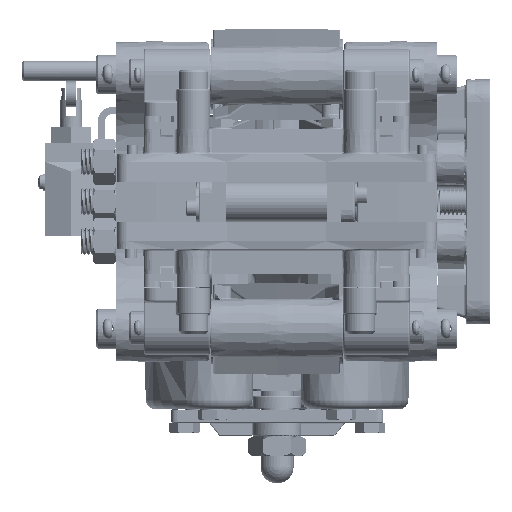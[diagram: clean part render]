
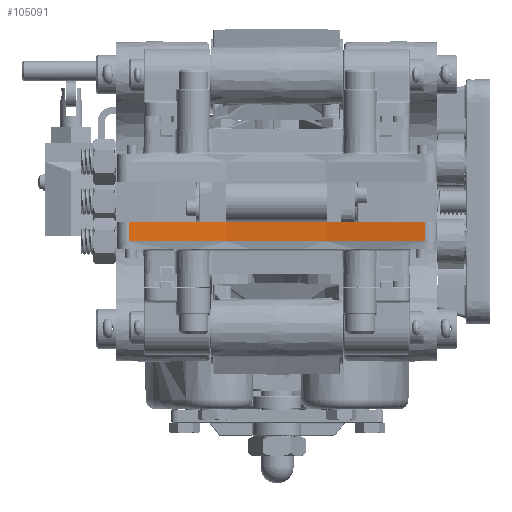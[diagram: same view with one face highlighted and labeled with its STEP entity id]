
A CAD part, left-side view. The second image highlights one B-rep face of the part: STEP entity #105091.
In plain terms, the highlighted cylindrical face has radius 317.5 mm (diameter 635 mm), a partial arc.
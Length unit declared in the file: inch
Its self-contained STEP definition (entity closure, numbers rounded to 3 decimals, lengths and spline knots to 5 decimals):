
#4612 = DIRECTION ( 'NONE',  ( 0., -1., 0. ) ) ;
#6239 = DIRECTION ( 'NONE',  ( 0., 0., 1. ) ) ;
#11229 = CARTESIAN_POINT ( 'NONE',  ( -15., 0., -0.75 ) ) ;
#13732 = ORIENTED_EDGE ( 'NONE', *, *, #124063, .T. ) ;
#17019 = CARTESIAN_POINT ( 'NONE',  ( -2.81549, -2.79064, -0.75 ) ) ;
#18176 = FACE_OUTER_BOUND ( 'NONE', #86260, .T. ) ;
#25596 = CARTESIAN_POINT ( 'NONE',  ( -2.81549, 2.79064, -0.375 ) ) ;
#29262 = EDGE_CURVE ( 'NONE', #149122, #96801, #47565, .T. ) ;
#30601 = LINE ( 'NONE', #17019, #87153 ) ;
#36003 = DIRECTION ( 'NONE',  ( 0., 0., 1. ) ) ;
#39884 = DIRECTION ( 'NONE',  ( 0., 0., 1. ) ) ;
#41278 = CARTESIAN_POINT ( 'NONE',  ( -2.81549, -2.79064, -0.375 ) ) ;
#47565 = CIRCLE ( 'NONE', #67989, 12.5 ) ;
#51089 = LINE ( 'NONE', #99805, #125960 ) ;
#53474 = ORIENTED_EDGE ( 'NONE', *, *, #29262, .F. ) ;
#59985 = DIRECTION ( 'NONE',  ( 0., -1., 0. ) ) ;
#66951 = CARTESIAN_POINT ( 'NONE',  ( -15., 0., -0.75 ) ) ;
#67773 = DIRECTION ( 'NONE',  ( 0., -1., 0. ) ) ;
#67989 = AXIS2_PLACEMENT_3D ( 'NONE', #11229, #36003, #59985 ) ;
#68138 = DIRECTION ( 'NONE',  ( 0., 0., 1. ) ) ;
#68930 = CARTESIAN_POINT ( 'NONE',  ( -2.81549, -2.79064, -0.75 ) ) ;
#72009 = VERTEX_POINT ( 'NONE', #41278 ) ;
#74640 = CARTESIAN_POINT ( 'NONE',  ( -2.81549, 2.79064, -0.75 ) ) ;
#79931 = CIRCLE ( 'NONE', #110596, 12.5 ) ;
#86260 = EDGE_LOOP ( 'NONE', ( #13732, #100034, #53474, #104967 ) ) ;
#87153 = VECTOR ( 'NONE', #68138, 39.37008 ) ;
#90895 = DIRECTION ( 'NONE',  ( 0., 0., 1. ) ) ;
#96801 = VERTEX_POINT ( 'NONE', #74640 ) ;
#99805 = CARTESIAN_POINT ( 'NONE',  ( -2.81549, 2.79064, -0.75 ) ) ;
#100034 = ORIENTED_EDGE ( 'NONE', *, *, #103256, .F. ) ;
#101433 = EDGE_CURVE ( 'NONE', #149122, #72009, #30601, .T. ) ;
#103256 = EDGE_CURVE ( 'NONE', #96801, #117353, #51089, .T. ) ;
#104967 = ORIENTED_EDGE ( 'NONE', *, *, #101433, .T. ) ;
#105091 = ADVANCED_FACE ( 'NONE', ( #18176 ), #150098, .F. ) ;
#110596 = AXIS2_PLACEMENT_3D ( 'NONE', #115727, #6239, #67773 ) ;
#115727 = CARTESIAN_POINT ( 'NONE',  ( -15., 0., -0.375 ) ) ;
#117353 = VERTEX_POINT ( 'NONE', #25596 ) ;
#124063 = EDGE_CURVE ( 'NONE', #72009, #117353, #79931, .T. ) ;
#125960 = VECTOR ( 'NONE', #39884, 39.37008 ) ;
#136557 = AXIS2_PLACEMENT_3D ( 'NONE', #66951, #90895, #4612 ) ;
#149122 = VERTEX_POINT ( 'NONE', #68930 ) ;
#150098 = CYLINDRICAL_SURFACE ( 'NONE', #136557, 12.5 ) ;
